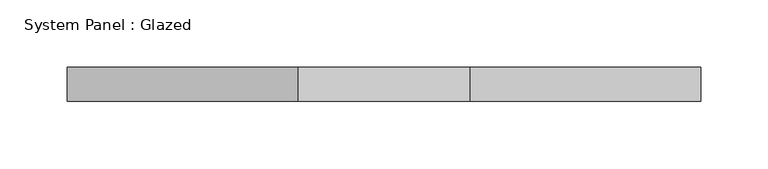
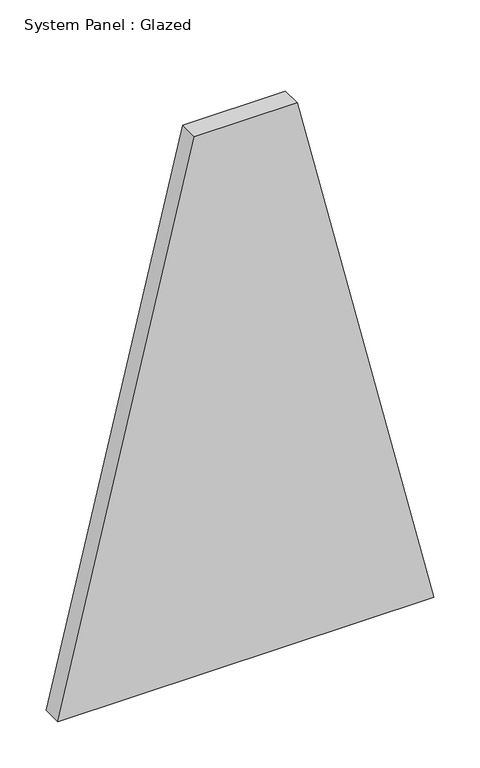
"""IFC4 building model written with IfcOpenShell, lengths in millimetres: plate geometry, System Panel : Glazed."""

from ifc_helpers import new_model, si_unit, frame, origin, place, context, project, spatial, polyline, outline, extrude, source, transform, mapped, element, save


def system_panel_glazed_1d538f7b(model_context):
    return source(origin(), model_context, "Body", "SweptSolid", [
        extrude(outline(polyline([(0.0, -235.7757896), (0.0, 235.7757896), (715.6332353, 64.3394765), (715.6332353, -64.3394765), (0.0, -235.7757896)])), frame((0.0, 19.05, 0.0), z_axis=(0.0, 1.0, 0.0), x_axis=(0.0, 0.0, 1.0)), (0.0, 0.0, 1.0), 25.4),
    ])


if __name__ == "__main__":
    model = new_model("IFC4")
    model_context = context("Model", 3, world=origin())
    ifc_project = project(units=[si_unit("LENGTHUNIT", "METRE", prefix="MILLI")], contexts=[model_context])
    site = spatial("IfcSite", under=ifc_project)
    building = spatial("IfcBuilding", under=site)
    placement = place(None, origin())
    system_panel_glazed_shape = system_panel_glazed_1d538f7b(model_context)
    element("IfcPlate", 1, ObjectType="System Panel : Glazed", at=placement, inside=building, context=model_context, shape_type="MappedRepresentation", body=[
        mapped(system_panel_glazed_shape, transform((0.0, 0.0, 0.0), x_axis=(1.0, 0.0, 0.0), y_axis=(0.0, 1.0, 0.0), z_axis=(0.0, 0.0, 1.0))),
    ])
    save(model, "model.ifc")
